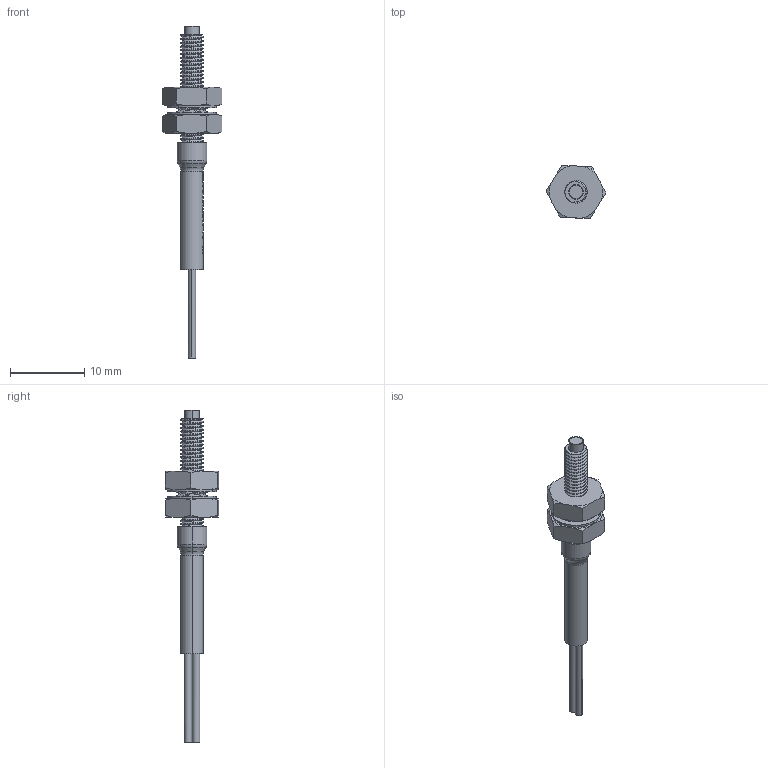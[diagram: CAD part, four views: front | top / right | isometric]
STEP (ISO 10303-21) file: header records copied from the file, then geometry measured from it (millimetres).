
FILE_DESCRIPTION (( 'STEP AP214' ), '1' );
FILE_NAME ('PD-32.STEP', '2015-09-24T08:21:21', ( '' ), ( '' ), 'SwSTEP 2.0', 'SolidWorks 2013', '' );
FILE_SCHEMA (( 'AUTOMOTIVE_DESIGN' ));
Length unit declared in the file: millimetre
Products named in the file (1): PD-32
Bounding box: 8.08 x 7.15 x 44.71 mm (x, y, z)
Volume: 402.4 mm3; surface area: 1039.4 mm2
Topology: 6 solids, 6 shells, 431 faces, 1189 edges, 782 vertices
Faces by surface type: plane 237, cylinder 125, cone 32, bspline 29, torus 8
Entity records: 20649 total; most frequent: CARTESIAN_POINT 8098, ORIENTED_EDGE 2378, DIRECTION 1879, EDGE_CURVE 1189, VERTEX_POINT 782, VECTOR 677, LINE 677, AXIS2_PLACEMENT_3D 601
